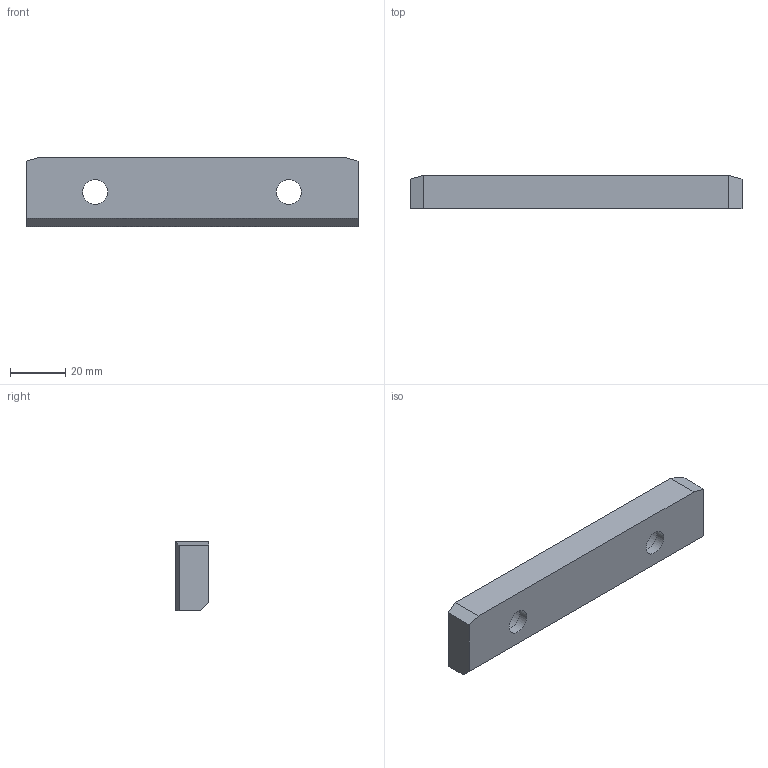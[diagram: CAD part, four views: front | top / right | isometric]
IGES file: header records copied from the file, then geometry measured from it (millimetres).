
Start section: Data from Parasolid IGES Translator 20.0.26, Copyright(c) 2006 Siemens P LM Software. All Rights Reserved.
Global section: file name: G224-12-012-120.igs; native system: By Siemens PLM Incorporated; preprocessor: XPlus GENERIC/IGES 20.0.26; author: Noname; organization: Noname; date: 20190709.085116; units: millimetre
Bounding box: 120 x 12 x 25 mm (x, y, z)
Surface area: 9894.9 mm2 (no closed solid volume)
Topology: 0 solids, 0 shells, 17 faces, 74 edges, 66 vertices
Faces by surface type: extrusion 13, revolution 4
